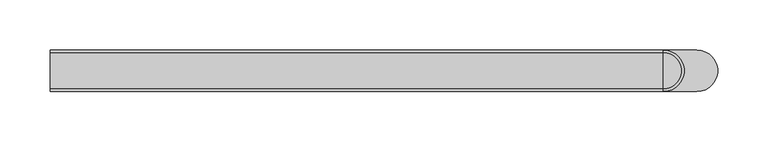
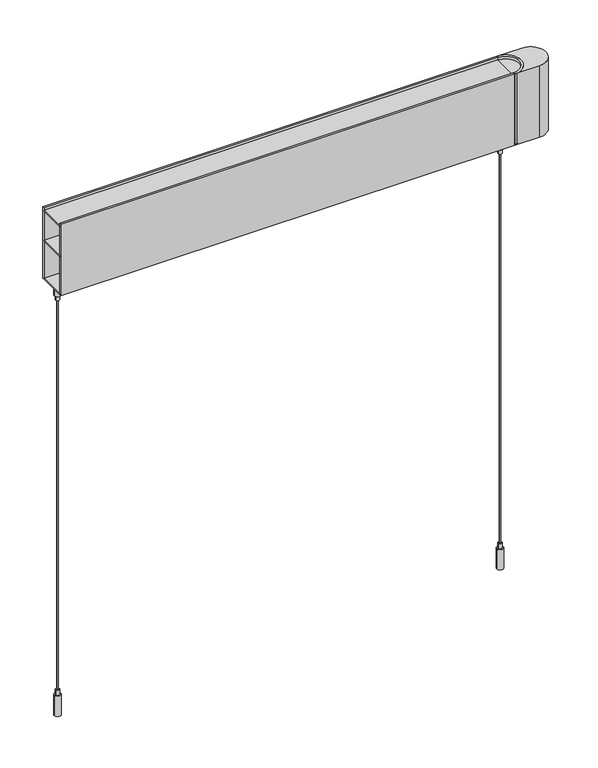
"""IFC4 building model written with IfcOpenShell, lengths in millimetres: light fixture geometry, Lighting-Pendant-Betacalco-Block-Straight : BLKP-DT1-PW01-TR01-SL04-EP01-LP020-CR80-CTA40."""

from ifc_helpers import new_model, si_unit, point, frame, frame_2d, origin, place, context, project, spatial, polyline, circle_curve, trimmed, segment, composite_curve, outline, extrude, source, transform, mapped, element, save
from ifc_brep_helpers import plane_surface, cylinder_surface, revolved_surface, advanced_brep


def light_fixture_c50b9ad0(model_context):
    return source(origin(), model_context, "Body", "SolidModel", [
        extrude(outline(composite_curve([segment(polyline([(304.8, -20.6375), (304.8, -18.0975)]), True, "CONTINUOUS"), segment(trimmed(circle_curve(frame_2d((304.8, 0.0)), 18.0975), [point((304.8, -18.0975))], [point((304.8, 18.0975))], True, "CARTESIAN"), True, "CONTINUOUS"), segment(polyline([(304.8, 18.0975), (304.8, 20.6375)]), True, "CONTINUOUS"), segment(trimmed(circle_curve(frame_2d((304.8, 0.0)), 20.6375), [point((304.8, 20.6375))], [point((304.8, -20.6375))], False, "CARTESIAN"), True, "CONTINUOUS")], self_intersect=False)), frame((0.0, 0.0, 611.1875), z_axis=(0.0, 0.0, 1.0), x_axis=(1.0, 0.0, 0.0)), (0.0, 0.0, 1.0), 100.0125),
        extrude(outline(composite_curve([segment(polyline([(304.8, -18.0975), (304.8, 18.0975)]), True, "CONTINUOUS"), segment(trimmed(circle_curve(frame_2d((304.8, 0.0)), 18.0975), [point((304.8, 18.0975))], [point((304.8, -18.0975))], False, "CARTESIAN"), True, "CONTINUOUS")], self_intersect=False)), frame((0.0, 0.0, 705.9095588), z_axis=(0.0, 0.0, 1.0), x_axis=(1.0, 0.0, 0.0)), (0.0, 0.0, 1.0), 1.5875),
        advanced_brep(
        [(304.8, 20.6375, 611.1875), (304.8, -20.6375, 611.1875), (304.8, -20.6375, 609.6), (304.8, 20.6375, 609.6), (338.1375, 20.6375, 609.6), (338.1375, -20.6375, 609.6), (304.8, 20.6375, 711.2), (304.8, -20.6375, 711.2), (338.1375, -20.6375, 711.2), (338.1375, 20.6375, 711.2)],
        [
            (0, 1),
            (1, 0, circle_curve(frame((304.8, 0.0, 611.1875), z_axis=(0.0, 0.0, 1.0), x_axis=(1.0, 0.0, 0.0)), 20.6375)),
            (2, 3),
            (3, 4),
            (4, 5, circle_curve(frame((338.1375, 0.0, 609.6), z_axis=(0.0, 0.0, -1.0), x_axis=(1.0, 0.0, 0.0)), 20.6375)),
            (5, 2),
            (0, 3),
            (2, 1),
            (6, 7, circle_curve(frame((304.8, 0.0, 711.2), z_axis=(0.0, 0.0, -1.0), x_axis=(1.0, 0.0, 0.0)), 20.6375)),
            (7, 8),
            (8, 9, circle_curve(frame((338.1375, 0.0, 711.2), z_axis=(0.0, 0.0, 1.0), x_axis=(1.0, 0.0, 0.0)), 20.6375)),
            (9, 6),
            (6, 0),
            (1, 7),
            (5, 8),
            (4, 9),
        ],
        [
            plane_surface(frame((325.4375, 0.0, 611.1875), z_axis=(0.0, 0.0, 1.0), x_axis=(0.0, 1.0, 0.0))),
            plane_surface(frame((325.4375, 0.0, 609.6), z_axis=(0.0, 0.0, -1.0), x_axis=(0.0, -1.0, 0.0))),
            plane_surface(frame((304.8, 20.6375, 611.1875), z_axis=(-1.0, 0.0, 0.0), x_axis=(0.0, 0.0, -1.0))),
            plane_surface(frame((325.4375, 0.0, 711.2), z_axis=(0.0, 0.0, 1.0), x_axis=(0.0, -1.0, 0.0))),
            revolved_surface(polyline([(325.4375, 0.0, 611.1875), (325.4375, 0.0, 711.2)]), (304.8, 0.0, 609.6), (0.0, 0.0, -1.0)),
            plane_surface(frame((304.8, -20.6375, 711.2), z_axis=(0.0, -1.0, 0.0), x_axis=(0.0, 0.0, -1.0))),
            cylinder_surface(frame((338.1375, 0.0, 609.6), z_axis=(0.0, 0.0, 1.0), x_axis=(1.0, 0.0, 0.0)), 20.6375),
            plane_surface(frame((338.1375, 20.6375, 711.2), z_axis=(0.0, 1.0, 0.0), x_axis=(0.0, 0.0, -1.0))),
        ],
        [
            (0, [[1, 2]]),
            (1, [[3, 4, 5, 6]]),
            (2, [[-1, 7, -3, 8]]),
            (3, [[9, 10, 11, 12]]),
            (4, [[-9, 13, -2, 14]]),
            (5, [[-10, -14, -8, -6, 15]]),
            (6, [[-11, -15, -5, 16]]),
            (7, [[-12, -16, -4, -7, -13]]),
        ],
    ),
        advanced_brep(
        [(301.6250015, 0.0, 0.0), (292.7349985, 0.0, 0.0), (292.7349985, 0.0, 28.4480024), (301.6250015, 0.0, 28.4480024), (294.6400002, 0.0, 28.4480024), (299.7199998, 0.0, 28.4480024), (294.6400002, 0.0, 35.4330037), (299.7199998, 0.0, 35.4330037), (297.18, 0.0, 35.4330037), (297.18, 0.0, 0.0)],
        [
            (0, 1, circle_curve(frame((297.18, 0.0, 0.0), z_axis=(0.0, 0.0, 1.0), x_axis=(-1.0, 0.0, 0.0)), 4.4450015)),
            (1, 2),
            (2, 3, circle_curve(frame((297.18, 0.0, 28.4480024), z_axis=(0.0, 0.0, -1.0), x_axis=(-1.0, 0.0, 0.0)), 4.4450015)),
            (3, 0),
            (1, 0, circle_curve(frame((297.18, 0.0, 0.0), z_axis=(0.0, 0.0, 1.0), x_axis=(-1.0, 0.0, 0.0)), 4.4450015)),
            (3, 2, circle_curve(frame((297.18, 0.0, 28.4480024), z_axis=(0.0, 0.0, -1.0), x_axis=(-1.0, 0.0, 0.0)), 4.4450015)),
            (2, 4),
            (4, 5, circle_curve(frame((297.18, 0.0, 28.4480024), z_axis=(0.0, 0.0, -1.0), x_axis=(-1.0, 0.0, 0.0)), 2.5399998)),
            (5, 3),
            (5, 4, circle_curve(frame((297.18, 0.0, 28.4480024), z_axis=(0.0, 0.0, -1.0), x_axis=(-1.0, 0.0, 0.0)), 2.5399998)),
            (4, 6),
            (6, 7, circle_curve(frame((297.18, 0.0, 35.4330037), z_axis=(0.0, 0.0, -1.0), x_axis=(-1.0, 0.0, 0.0)), 2.5399998)),
            (7, 5),
            (7, 6, circle_curve(frame((297.18, 0.0, 35.4330037), z_axis=(0.0, 0.0, -1.0), x_axis=(-1.0, 0.0, 0.0)), 2.5399998)),
            (6, 8),
            (8, 7),
            (9, 1),
            (0, 9),
        ],
        [
            cylinder_surface(frame((297.18, 0.0, 2366.7150031), z_axis=(0.0, 0.0, -1.0), x_axis=(-1.0, 0.0, 0.0)), 4.4450015),
            plane_surface(frame((297.18, 0.0, 28.4480024), z_axis=(0.0, 0.0, 1.0), x_axis=(-1.0, 0.0, 0.0))),
            cylinder_surface(frame((297.18, 0.0, 2366.7150031), z_axis=(0.0, 0.0, -1.0), x_axis=(-1.0, 0.0, 0.0)), 2.5399998),
            plane_surface(frame((297.18, 0.0, 35.4330037), z_axis=(0.0, 0.0, 1.0), x_axis=(-1.0, 0.0, 0.0))),
            plane_surface(frame((297.18, 0.0, 0.0), z_axis=(0.0, 0.0, -1.0), x_axis=(-1.0, 0.0, 0.0))),
        ],
        [
            (0, [[1, 2, 3, 4]]),
            (0, [[5, -4, 6, -2]]),
            (1, [[-3, 7, 8, 9]]),
            (1, [[-6, -9, 10, -7]]),
            (2, [[-8, 11, 12, 13]]),
            (2, [[-10, -13, 14, -11]]),
            (3, [[-12, 15, 16]]),
            (3, [[-14, -16, -15]]),
            (4, [[17, -1, 18]]),
            (4, [[-18, -5, -17]]),
        ],
    ),
        advanced_brep(
        [(297.9737476, 0.0, 35.4330037), (296.3862524, 0.0, 35.4330037), (296.3862524, 0.0, 589.2774601), (297.9737476, 0.0, 589.2774601), (297.18, 0.0, 35.4330037), (297.18, 0.0, 589.2774601)],
        [
            (0, 1, circle_curve(frame((297.18, 0.0, 35.4330037), z_axis=(0.0, 0.0, 1.0), x_axis=(-1.0, 0.0, 0.0)), 0.7937476)),
            (1, 2),
            (2, 3, circle_curve(frame((297.18, 0.0, 589.2774601), z_axis=(0.0, 0.0, -1.0), x_axis=(-1.0, 0.0, 0.0)), 0.7937476)),
            (3, 0),
            (1, 0, circle_curve(frame((297.18, 0.0, 35.4330037), z_axis=(0.0, 0.0, 1.0), x_axis=(-1.0, 0.0, 0.0)), 0.7937476)),
            (3, 2, circle_curve(frame((297.18, 0.0, 589.2774601), z_axis=(0.0, 0.0, -1.0), x_axis=(-1.0, 0.0, 0.0)), 0.7937476)),
            (4, 1),
            (0, 4),
            (2, 5),
            (5, 3),
        ],
        [
            cylinder_surface(frame((297.18, 0.0, 2366.7150031), z_axis=(0.0, 0.0, -1.0), x_axis=(-1.0, 0.0, 0.0)), 0.7937476),
            plane_surface(frame((297.18, 0.0, 35.4330037), z_axis=(0.0, 0.0, -1.0), x_axis=(-1.0, 0.0, 0.0))),
            plane_surface(frame((297.18, 0.0, 589.2774601), z_axis=(0.0, 0.0, 1.0), x_axis=(-1.0, 0.0, 0.0))),
        ],
        [
            (0, [[1, 2, 3, 4]]),
            (0, [[5, -4, 6, -2]]),
            (1, [[7, -1, 8]]),
            (1, [[-8, -5, -7]]),
            (2, [[-3, 9, 10]]),
            (2, [[-6, -10, -9]]),
        ],
    ),
        advanced_brep(
        [(301.6250015, 0.0, 596.2624614), (292.7349985, 0.0, 596.2624614), (292.7349985, 0.0, 609.6), (301.6250015, 0.0, 609.6), (299.7199998, 0.0, 596.2624614), (294.6400002, 0.0, 596.2624614), (299.7199998, 0.0, 589.2774601), (294.6400002, 0.0, 589.2774601), (297.18, 0.0, 589.2774601), (297.18, 0.0, 609.6)],
        [
            (0, 1, circle_curve(frame((297.18, 0.0, 596.2624614), z_axis=(0.0, 0.0, 1.0), x_axis=(-1.0, 0.0, 0.0)), 4.4450015)),
            (1, 2),
            (2, 3, circle_curve(frame((297.18, 0.0, 609.6), z_axis=(0.0, 0.0, -1.0), x_axis=(-1.0, 0.0, 0.0)), 4.4450015)),
            (3, 0),
            (1, 0, circle_curve(frame((297.18, 0.0, 596.2624614), z_axis=(0.0, 0.0, 1.0), x_axis=(-1.0, 0.0, 0.0)), 4.4450015)),
            (3, 2, circle_curve(frame((297.18, 0.0, 609.6), z_axis=(0.0, 0.0, -1.0), x_axis=(-1.0, 0.0, 0.0)), 4.4450015)),
            (4, 5, circle_curve(frame((297.18, 0.0, 596.2624614), z_axis=(0.0, 0.0, 1.0), x_axis=(-1.0, 0.0, 0.0)), 2.5399998)),
            (5, 1),
            (0, 4),
            (5, 4, circle_curve(frame((297.18, 0.0, 596.2624614), z_axis=(0.0, 0.0, 1.0), x_axis=(-1.0, 0.0, 0.0)), 2.5399998)),
            (6, 7, circle_curve(frame((297.18, 0.0, 589.2774601), z_axis=(0.0, 0.0, 1.0), x_axis=(-1.0, 0.0, 0.0)), 2.5399998)),
            (7, 5),
            (4, 6),
            (7, 6, circle_curve(frame((297.18, 0.0, 589.2774601), z_axis=(0.0, 0.0, 1.0), x_axis=(-1.0, 0.0, 0.0)), 2.5399998)),
            (8, 7),
            (6, 8),
            (2, 9),
            (9, 3),
        ],
        [
            cylinder_surface(frame((297.18, 0.0, 2366.7150031), z_axis=(0.0, 0.0, -1.0), x_axis=(-1.0, 0.0, 0.0)), 4.4450015),
            plane_surface(frame((297.18, 0.0, 596.2624614), z_axis=(0.0, 0.0, -1.0), x_axis=(-1.0, 0.0, 0.0))),
            cylinder_surface(frame((297.18, 0.0, 2366.7150031), z_axis=(0.0, 0.0, -1.0), x_axis=(-1.0, 0.0, 0.0)), 2.5399998),
            plane_surface(frame((297.18, 0.0, 589.2774601), z_axis=(0.0, 0.0, -1.0), x_axis=(-1.0, 0.0, 0.0))),
            plane_surface(frame((297.18, 0.0, 609.6), z_axis=(0.0, 0.0, 1.0), x_axis=(-1.0, 0.0, 0.0))),
        ],
        [
            (0, [[1, 2, 3, 4]]),
            (0, [[5, -4, 6, -2]]),
            (1, [[7, 8, -1, 9]]),
            (1, [[10, -9, -5, -8]]),
            (2, [[11, 12, -7, 13]]),
            (2, [[14, -13, -10, -12]]),
            (3, [[15, -11, 16]]),
            (3, [[-16, -14, -15]]),
            (4, [[-3, 17, 18]]),
            (4, [[-6, -18, -17]]),
        ],
    ),
        advanced_brep(
        [(-292.7349985, 0.0, 0.0), (-301.6250015, 0.0, 0.0), (-301.6250015, 0.0, 28.4480024), (-292.7349985, 0.0, 28.4480024), (-299.7199998, 0.0, 28.4480024), (-294.6400002, 0.0, 28.4480024), (-299.7199998, 0.0, 35.4330037), (-294.6400002, 0.0, 35.4330037), (-297.18, 0.0, 35.4330037), (-297.18, 0.0, 0.0)],
        [
            (0, 1, circle_curve(frame((-297.18, 0.0, 0.0), z_axis=(0.0, 0.0, 1.0), x_axis=(-1.0, 0.0, 0.0)), 4.4450015)),
            (1, 2),
            (2, 3, circle_curve(frame((-297.18, 0.0, 28.4480024), z_axis=(0.0, 0.0, -1.0), x_axis=(-1.0, 0.0, 0.0)), 4.4450015)),
            (3, 0),
            (1, 0, circle_curve(frame((-297.18, 0.0, 0.0), z_axis=(0.0, 0.0, 1.0), x_axis=(-1.0, 0.0, 0.0)), 4.4450015)),
            (3, 2, circle_curve(frame((-297.18, 0.0, 28.4480024), z_axis=(0.0, 0.0, -1.0), x_axis=(-1.0, 0.0, 0.0)), 4.4450015)),
            (2, 4),
            (4, 5, circle_curve(frame((-297.18, 0.0, 28.4480024), z_axis=(0.0, 0.0, -1.0), x_axis=(-1.0, 0.0, 0.0)), 2.5399998)),
            (5, 3),
            (5, 4, circle_curve(frame((-297.18, 0.0, 28.4480024), z_axis=(0.0, 0.0, -1.0), x_axis=(-1.0, 0.0, 0.0)), 2.5399998)),
            (4, 6),
            (6, 7, circle_curve(frame((-297.18, 0.0, 35.4330037), z_axis=(0.0, 0.0, -1.0), x_axis=(-1.0, 0.0, 0.0)), 2.5399998)),
            (7, 5),
            (7, 6, circle_curve(frame((-297.18, 0.0, 35.4330037), z_axis=(0.0, 0.0, -1.0), x_axis=(-1.0, 0.0, 0.0)), 2.5399998)),
            (6, 8),
            (8, 7),
            (9, 1),
            (0, 9),
        ],
        [
            cylinder_surface(frame((-297.18, 0.0, 2366.7150031), z_axis=(0.0, 0.0, -1.0), x_axis=(-1.0, 0.0, 0.0)), 4.4450015),
            plane_surface(frame((-297.18, 0.0, 28.4480024), z_axis=(0.0, 0.0, 1.0), x_axis=(-1.0, 0.0, 0.0))),
            cylinder_surface(frame((-297.18, 0.0, 2366.7150031), z_axis=(0.0, 0.0, -1.0), x_axis=(-1.0, 0.0, 0.0)), 2.5399998),
            plane_surface(frame((-297.18, 0.0, 35.4330037), z_axis=(0.0, 0.0, 1.0), x_axis=(-1.0, 0.0, 0.0))),
            plane_surface(frame((-297.18, 0.0, 0.0), z_axis=(0.0, 0.0, -1.0), x_axis=(-1.0, 0.0, 0.0))),
        ],
        [
            (0, [[1, 2, 3, 4]]),
            (0, [[5, -4, 6, -2]]),
            (1, [[-3, 7, 8, 9]]),
            (1, [[-6, -9, 10, -7]]),
            (2, [[-8, 11, 12, 13]]),
            (2, [[-10, -13, 14, -11]]),
            (3, [[-12, 15, 16]]),
            (3, [[-14, -16, -15]]),
            (4, [[17, -1, 18]]),
            (4, [[-18, -5, -17]]),
        ],
    ),
        advanced_brep(
        [(-296.3862524, 0.0, 35.4330037), (-297.9737476, 0.0, 35.4330037), (-297.9737476, 0.0, 589.2774601), (-296.3862524, 0.0, 589.2774601), (-297.18, 0.0, 35.4330037), (-297.18, 0.0, 589.2774601)],
        [
            (0, 1, circle_curve(frame((-297.18, 0.0, 35.4330037), z_axis=(0.0, 0.0, 1.0), x_axis=(-1.0, 0.0, 0.0)), 0.7937476)),
            (1, 2),
            (2, 3, circle_curve(frame((-297.18, 0.0, 589.2774601), z_axis=(0.0, 0.0, -1.0), x_axis=(-1.0, 0.0, 0.0)), 0.7937476)),
            (3, 0),
            (1, 0, circle_curve(frame((-297.18, 0.0, 35.4330037), z_axis=(0.0, 0.0, 1.0), x_axis=(-1.0, 0.0, 0.0)), 0.7937476)),
            (3, 2, circle_curve(frame((-297.18, 0.0, 589.2774601), z_axis=(0.0, 0.0, -1.0), x_axis=(-1.0, 0.0, 0.0)), 0.7937476)),
            (4, 1),
            (0, 4),
            (2, 5),
            (5, 3),
        ],
        [
            cylinder_surface(frame((-297.18, 0.0, 2366.7150031), z_axis=(0.0, 0.0, -1.0), x_axis=(-1.0, 0.0, 0.0)), 0.7937476),
            plane_surface(frame((-297.18, 0.0, 35.4330037), z_axis=(0.0, 0.0, -1.0), x_axis=(-1.0, 0.0, 0.0))),
            plane_surface(frame((-297.18, 0.0, 589.2774601), z_axis=(0.0, 0.0, 1.0), x_axis=(-1.0, 0.0, 0.0))),
        ],
        [
            (0, [[1, 2, 3, 4]]),
            (0, [[5, -4, 6, -2]]),
            (1, [[7, -1, 8]]),
            (1, [[-8, -5, -7]]),
            (2, [[-3, 9, 10]]),
            (2, [[-6, -10, -9]]),
        ],
    ),
        advanced_brep(
        [(-292.7349985, 0.0, 596.2624614), (-301.6250015, 0.0, 596.2624614), (-301.6250015, 0.0, 609.6), (-292.7349985, 0.0, 609.6), (-294.6400002, 0.0, 596.2624614), (-299.7199998, 0.0, 596.2624614), (-294.6400002, 0.0, 589.2774601), (-299.7199998, 0.0, 589.2774601), (-297.18, 0.0, 589.2774601), (-297.18, 0.0, 609.6)],
        [
            (0, 1, circle_curve(frame((-297.18, 0.0, 596.2624614), z_axis=(0.0, 0.0, 1.0), x_axis=(-1.0, 0.0, 0.0)), 4.4450015)),
            (1, 2),
            (2, 3, circle_curve(frame((-297.18, 0.0, 609.6), z_axis=(0.0, 0.0, -1.0), x_axis=(-1.0, 0.0, 0.0)), 4.4450015)),
            (3, 0),
            (1, 0, circle_curve(frame((-297.18, 0.0, 596.2624614), z_axis=(0.0, 0.0, 1.0), x_axis=(-1.0, 0.0, 0.0)), 4.4450015)),
            (3, 2, circle_curve(frame((-297.18, 0.0, 609.6), z_axis=(0.0, 0.0, -1.0), x_axis=(-1.0, 0.0, 0.0)), 4.4450015)),
            (4, 5, circle_curve(frame((-297.18, 0.0, 596.2624614), z_axis=(0.0, 0.0, 1.0), x_axis=(-1.0, 0.0, 0.0)), 2.5399998)),
            (5, 1),
            (0, 4),
            (5, 4, circle_curve(frame((-297.18, 0.0, 596.2624614), z_axis=(0.0, 0.0, 1.0), x_axis=(-1.0, 0.0, 0.0)), 2.5399998)),
            (6, 7, circle_curve(frame((-297.18, 0.0, 589.2774601), z_axis=(0.0, 0.0, 1.0), x_axis=(-1.0, 0.0, 0.0)), 2.5399998)),
            (7, 5),
            (4, 6),
            (7, 6, circle_curve(frame((-297.18, 0.0, 589.2774601), z_axis=(0.0, 0.0, 1.0), x_axis=(-1.0, 0.0, 0.0)), 2.5399998)),
            (8, 7),
            (6, 8),
            (2, 9),
            (9, 3),
        ],
        [
            cylinder_surface(frame((-297.18, 0.0, 2366.7150031), z_axis=(0.0, 0.0, -1.0), x_axis=(-1.0, 0.0, 0.0)), 4.4450015),
            plane_surface(frame((-297.18, 0.0, 596.2624614), z_axis=(0.0, 0.0, -1.0), x_axis=(-1.0, 0.0, 0.0))),
            cylinder_surface(frame((-297.18, 0.0, 2366.7150031), z_axis=(0.0, 0.0, -1.0), x_axis=(-1.0, 0.0, 0.0)), 2.5399998),
            plane_surface(frame((-297.18, 0.0, 589.2774601), z_axis=(0.0, 0.0, -1.0), x_axis=(-1.0, 0.0, 0.0))),
            plane_surface(frame((-297.18, 0.0, 609.6), z_axis=(0.0, 0.0, 1.0), x_axis=(-1.0, 0.0, 0.0))),
        ],
        [
            (0, [[1, 2, 3, 4]]),
            (0, [[5, -4, 6, -2]]),
            (1, [[7, 8, -1, 9]]),
            (1, [[10, -9, -5, -8]]),
            (2, [[11, 12, -7, 13]]),
            (2, [[14, -13, -10, -12]]),
            (3, [[15, -11, 16]]),
            (3, [[-16, -14, -15]]),
            (4, [[-3, 17, 18]]),
            (4, [[-6, -18, -17]]),
        ],
    ),
        extrude(outline(polyline([(304.8, 18.0975), (304.8, -18.0975), (-304.8, -18.0975), (-304.8, 18.0975), (304.8, 18.0975)])), frame((0.0, 0.0, 705.9095588), z_axis=(0.0, 0.0, 1.0), x_axis=(1.0, 0.0, 0.0)), (0.0, 0.0, 1.0), 1.5875),
        extrude(outline(polyline([(304.8, 18.0975), (304.8, -18.0975), (-304.8, -18.0975), (-304.8, 18.0975), (304.8, 18.0975)])), frame((0.0, 0.0, 663.287913), z_axis=(0.0, 0.0, 1.0), x_axis=(1.0, 0.0, 0.0)), (0.0, 0.0, 1.0), 1.5875),
        extrude(outline(polyline([(304.8, 18.0975), (304.8, -18.0975), (-304.8, -18.0975), (-304.8, 18.0975), (304.8, 18.0975)])), frame((0.0, 0.0, 609.6), z_axis=(0.0, 0.0, 1.0), x_axis=(1.0, 0.0, 0.0)), (0.0, 0.0, 1.0), 1.5875),
        extrude(outline(polyline([(304.8, 20.6375), (304.8, 18.0975), (-304.8, 18.0975), (-304.8, 20.6375), (304.8, 20.6375)])), frame((0.0, 0.0, 609.6), z_axis=(0.0, 0.0, 1.0), x_axis=(1.0, 0.0, 0.0)), (0.0, 0.0, 1.0), 101.6),
        extrude(outline(polyline([(304.8, -18.0975), (304.8, -20.6375), (-304.8, -20.6375), (-304.8, -18.0975), (304.8, -18.0975)])), frame((0.0, 0.0, 609.6), z_axis=(0.0, 0.0, 1.0), x_axis=(1.0, 0.0, 0.0)), (0.0, 0.0, 1.0), 101.6),
    ])


if __name__ == "__main__":
    model = new_model("IFC4")
    model_context = context("Model", 3, world=origin())
    ifc_project = project(units=[si_unit("LENGTHUNIT", "METRE", prefix="MILLI")], contexts=[model_context])
    site = spatial("IfcSite", under=ifc_project)
    building = spatial("IfcBuilding", under=site)
    placement = place(None, origin())
    light_fixture_shape = light_fixture_c50b9ad0(model_context)
    element("IfcLightFixture", 1, ObjectType="Lighting-Pendant-Betacalco-Block-Straight : BLKP-DT1-PW01-TR01-SL04-EP01-LP020-CR80-CTA40", at=placement, inside=building, context=model_context, shape_type="MappedRepresentation", body=[
        mapped(light_fixture_shape, transform((0.0, 0.0, 0.0), x_axis=(1.0, 0.0, 0.0), y_axis=(0.0, 1.0, 0.0), z_axis=(0.0, 0.0, 1.0))),
    ])
    save(model, "model.ifc")
